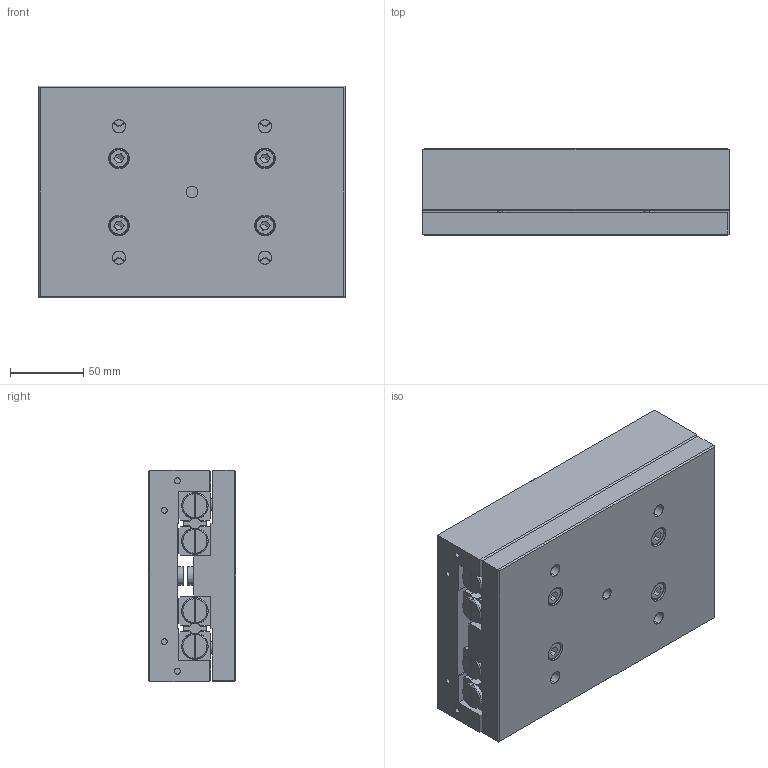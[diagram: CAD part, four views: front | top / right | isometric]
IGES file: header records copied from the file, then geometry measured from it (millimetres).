
Start section: SolidWorks IGES file using analytic representation for surfaces
Global section: file name: C:\Documents and Settings\IanO.IANOHOME\My Documents\Wix and Auto CAD Work\CAD Models\Parametric Models\Auto Models\L1020\L1020_IGES\L1020.145-210.igs; native system: SolidWorks 2009; preprocessor: SolidWorks 2009; author: IanO; date: 110922.163115; units: millimetre
Bounding box: 210 x 60 x 145 mm (x, y, z)
Surface area: 294097.9 mm2 (no closed solid volume)
Topology: 0 solids, 0 shells, 888 faces, 12504 edges, 12484 vertices
Faces by surface type: bspline 580, revolution 308
